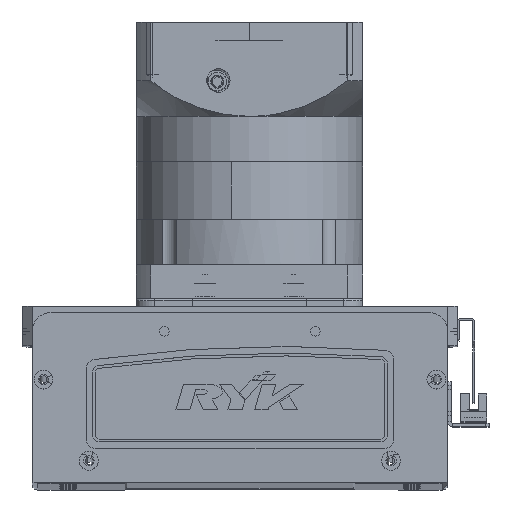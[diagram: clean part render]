
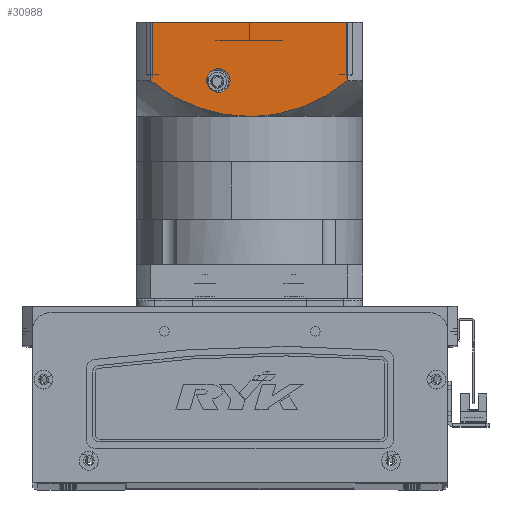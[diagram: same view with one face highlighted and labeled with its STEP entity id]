
A CAD part, top view. The second image highlights one B-rep face of the part: STEP entity #30988.
In plain terms, the highlighted planar face has unit normal (0, 0, 1) as drawn and (0, -1, 0) by its records, which use the part's own axes.
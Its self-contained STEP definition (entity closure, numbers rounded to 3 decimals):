
#736 = DIRECTION ( 'NONE',  ( 0., 0., 1. ) ) ;
#1612 = CARTESIAN_POINT ( 'NONE',  ( -2.376, -60., -100.5 ) ) ;
#2031 = CARTESIAN_POINT ( 'NONE',  ( -36.409, -60., -109.113 ) ) ;
#2253 = ORIENTED_EDGE ( 'NONE', *, *, #49298, .T. ) ;
#3207 = CARTESIAN_POINT ( 'NONE',  ( 0., -60., -100.5 ) ) ;
#3490 = VERTEX_POINT ( 'NONE', #26634 ) ;
#3512 = CARTESIAN_POINT ( 'NONE',  ( 52.156, -60., -119.5 ) ) ;
#4407 = CARTESIAN_POINT ( 'NONE',  ( 41.545, -60., -111.931 ) ) ;
#5366 = EDGE_LOOP ( 'NONE', ( #15705, #29227, #33520, #60590, #7118 ) ) ;
#7118 = ORIENTED_EDGE ( 'NONE', *, *, #7128, .F. ) ;
#7128 = EDGE_CURVE ( 'NONE', #7533, #12814, #40632, .T. ) ;
#7147 = CARTESIAN_POINT ( 'NONE',  ( -9.477, -60., -101.046 ) ) ;
#7533 = VERTEX_POINT ( 'NONE', #31439 ) ;
#9507 = CARTESIAN_POINT ( 'NONE',  ( 50.338, -60., -117.969 ) ) ;
#11293 = VECTOR ( 'NONE', #736, 1000. ) ;
#11558 = B_SPLINE_CURVE_WITH_KNOTS ( 'NONE', 3,
 ( #53734, #28377, #39522, #19094, #54629, #65070, #45049, #18860, #44389, #34196, #34637, #4407, #24397, #39968, #49090, #34850, #9507, #3512 ),
 .UNSPECIFIED., .F., .F.,
 ( 4, 2, 2, 2, 2, 2, 2, 2, 4 ),
 ( 0., 0.014, 0.018, 0.021, 0.028, 0.042, 0.046, 0.05, 0.057 ),
 .UNSPECIFIED. ) ;
#12253 = CARTESIAN_POINT ( 'NONE',  ( -52.156, -60., -119.5 ) ) ;
#12263 = CARTESIAN_POINT ( 'NONE',  ( -60., -60., -150.5 ) ) ;
#12814 = VERTEX_POINT ( 'NONE', #3207 ) ;
#14050 = VERTEX_POINT ( 'NONE', #17830 ) ;
#14926 = LINE ( 'NONE', #24106, #65842 ) ;
#15099 = AXIS2_PLACEMENT_3D ( 'NONE', #55654, #35660, #20968 ) ;
#15705 = ORIENTED_EDGE ( 'NONE', *, *, #49238, .F. ) ;
#16414 = FACE_BOUND ( 'NONE', #31116, .T. ) ;
#16891 = CIRCLE ( 'NONE', #55139, 6.25 ) ;
#17830 = CARTESIAN_POINT ( 'NONE',  ( -52.156, -60., -150.5 ) ) ;
#18860 = CARTESIAN_POINT ( 'NONE',  ( 23.329, -60., -103.886 ) ) ;
#19094 = CARTESIAN_POINT ( 'NONE',  ( 15.267, -60., -101.938 ) ) ;
#19169 = CIRCLE ( 'NONE', #15099, 6.25 ) ;
#20968 = DIRECTION ( 'NONE',  ( 0., 0., -1. ) ) ;
#21833 = CARTESIAN_POINT ( 'NONE',  ( -18.792, -60., -102.562 ) ) ;
#24106 = CARTESIAN_POINT ( 'NONE',  ( -60., -60., -150.5 ) ) ;
#24397 = CARTESIAN_POINT ( 'NONE',  ( 42.555, -60., -112.543 ) ) ;
#24852 = LINE ( 'NONE', #41404, #11293 ) ;
#26215 = CARTESIAN_POINT ( 'NONE',  ( 16.5, -60., -125.75 ) ) ;
#26634 = CARTESIAN_POINT ( 'NONE',  ( 16.5, -60., -113.25 ) ) ;
#26900 = CARTESIAN_POINT ( 'NONE',  ( -11.825, -60., -101.356 ) ) ;
#27349 = PLANE ( 'NONE',  #31016 ) ;
#27570 = DIRECTION ( 'NONE',  ( 1., 0., 0. ) ) ;
#28377 = CARTESIAN_POINT ( 'NONE',  ( 4.753, -60., -100.5 ) ) ;
#29227 = ORIENTED_EDGE ( 'NONE', *, *, #54270, .T. ) ;
#30988 = ADVANCED_FACE ( 'NONE', ( #45068, #16414 ), #27349, .T. ) ;
#31016 = AXIS2_PLACEMENT_3D ( 'NONE', #12263, #58039, #27570 ) ;
#31116 = EDGE_LOOP ( 'NONE', ( #32943, #2253 ) ) ;
#31439 = CARTESIAN_POINT ( 'NONE',  ( -52.156, -60., -119.5 ) ) ;
#31817 = CARTESIAN_POINT ( 'NONE',  ( -44.656, -60., -113.73 ) ) ;
#32025 = CARTESIAN_POINT ( 'NONE',  ( -4.747, -60., -100.604 ) ) ;
#32520 = EDGE_CURVE ( 'NONE', #12814, #53742, #11558, .T. ) ;
#32943 = ORIENTED_EDGE ( 'NONE', *, *, #58043, .T. ) ;
#33520 = ORIENTED_EDGE ( 'NONE', *, *, #36634, .T. ) ;
#33704 = DIRECTION ( 'NONE',  ( 0., 1., 0. ) ) ;
#34196 = CARTESIAN_POINT ( 'NONE',  ( 32.196, -60., -107.007 ) ) ;
#34637 = CARTESIAN_POINT ( 'NONE',  ( 36.444, -60., -108.986 ) ) ;
#34850 = CARTESIAN_POINT ( 'NONE',  ( 48.457, -60., -116.522 ) ) ;
#35660 = DIRECTION ( 'NONE',  ( 0., 1., 0. ) ) ;
#36634 = EDGE_CURVE ( 'NONE', #44439, #53742, #24852, .T. ) ;
#37609 = CARTESIAN_POINT ( 'NONE',  ( -35.342, -60., -108.587 ) ) ;
#39268 = DIRECTION ( 'NONE',  ( 0., 0., -1. ) ) ;
#39522 = CARTESIAN_POINT ( 'NONE',  ( 9.454, -60., -100.914 ) ) ;
#39968 = CARTESIAN_POINT ( 'NONE',  ( 44.553, -60., -113.817 ) ) ;
#40632 = B_SPLINE_CURVE_WITH_KNOTS ( 'NONE', 3,
 ( #12253, #47165, #31817, #52480, #42267, #2031, #37609, #62282, #62721, #42047, #21833, #47598, #26900, #7147, #58031, #32025, #1612, #47375 ),
 .UNSPECIFIED., .F., .F.,
 ( 4, 2, 2, 2, 2, 2, 2, 2, 4 ),
 ( 0., 0.014, 0.018, 0.021, 0.028, 0.042, 0.046, 0.05, 0.057 ),
 .UNSPECIFIED. ) ;
#41404 = CARTESIAN_POINT ( 'NONE',  ( 52.156, -60., -150.5 ) ) ;
#42047 = CARTESIAN_POINT ( 'NONE',  ( -23.319, -60., -103.777 ) ) ;
#42267 = CARTESIAN_POINT ( 'NONE',  ( -38.51, -60., -110.207 ) ) ;
#42428 = VERTEX_POINT ( 'NONE', #26215 ) ;
#43928 = CARTESIAN_POINT ( 'NONE',  ( 16.5, -60., -119.5 ) ) ;
#44389 = CARTESIAN_POINT ( 'NONE',  ( 25.577, -60., -104.596 ) ) ;
#44439 = VERTEX_POINT ( 'NONE', #54520 ) ;
#45049 = CARTESIAN_POINT ( 'NONE',  ( 19.894, -60., -102.964 ) ) ;
#45068 = FACE_OUTER_BOUND ( 'NONE', #5366, .T. ) ;
#46177 = VECTOR ( 'NONE', #60545, 1000. ) ;
#47165 = CARTESIAN_POINT ( 'NONE',  ( -48.52, -60., -116.438 ) ) ;
#47375 = CARTESIAN_POINT ( 'NONE',  ( 0., -60., -100.5 ) ) ;
#47598 = CARTESIAN_POINT ( 'NONE',  ( -12.993, -60., -101.537 ) ) ;
#49090 = CARTESIAN_POINT ( 'NONE',  ( 45.542, -60., -114.478 ) ) ;
#49238 = EDGE_CURVE ( 'NONE', #14050, #7533, #62893, .T. ) ;
#49298 = EDGE_CURVE ( 'NONE', #3490, #42428, #19169, .T. ) ;
#52480 = CARTESIAN_POINT ( 'NONE',  ( -39.546, -60., -110.776 ) ) ;
#53734 = CARTESIAN_POINT ( 'NONE',  ( 0., -60., -100.5 ) ) ;
#53742 = VERTEX_POINT ( 'NONE', #55302 ) ;
#54270 = EDGE_CURVE ( 'NONE', #14050, #44439, #14926, .T. ) ;
#54520 = CARTESIAN_POINT ( 'NONE',  ( 52.156, -60., -150.5 ) ) ;
#54629 = CARTESIAN_POINT ( 'NONE',  ( 16.426, -60., -102.169 ) ) ;
#55139 = AXIS2_PLACEMENT_3D ( 'NONE', #43928, #33704, #39268 ) ;
#55302 = CARTESIAN_POINT ( 'NONE',  ( 52.156, -60., -119.5 ) ) ;
#55654 = CARTESIAN_POINT ( 'NONE',  ( 16.5, -60., -119.5 ) ) ;
#58031 = CARTESIAN_POINT ( 'NONE',  ( -8.294, -60., -100.916 ) ) ;
#58039 = DIRECTION ( 'NONE',  ( 0., -1., 0. ) ) ;
#58043 = EDGE_CURVE ( 'NONE', #42428, #3490, #16891, .T. ) ;
#59660 = CARTESIAN_POINT ( 'NONE',  ( -52.156, -60., -97.5 ) ) ;
#60540 = DIRECTION ( 'NONE',  ( 1., 0., 0. ) ) ;
#60545 = DIRECTION ( 'NONE',  ( 0., 0., 1. ) ) ;
#60590 = ORIENTED_EDGE ( 'NONE', *, *, #32520, .F. ) ;
#62282 = CARTESIAN_POINT ( 'NONE',  ( -32.118, -60., -107.084 ) ) ;
#62721 = CARTESIAN_POINT ( 'NONE',  ( -29.939, -60., -106.183 ) ) ;
#62893 = LINE ( 'NONE', #59660, #46177 ) ;
#65070 = CARTESIAN_POINT ( 'NONE',  ( 18.739, -60., -102.681 ) ) ;
#65842 = VECTOR ( 'NONE', #60540, 1000. ) ;
